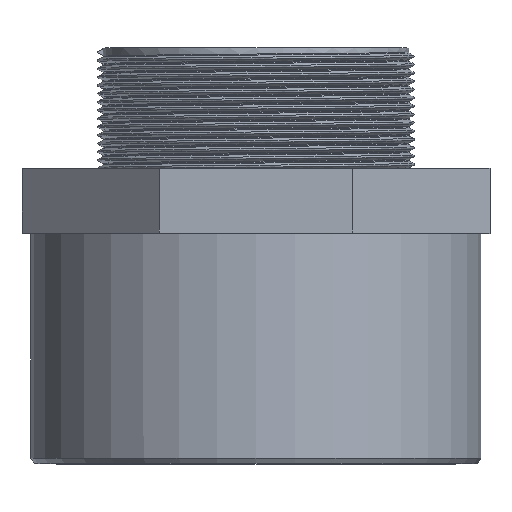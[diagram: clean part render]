
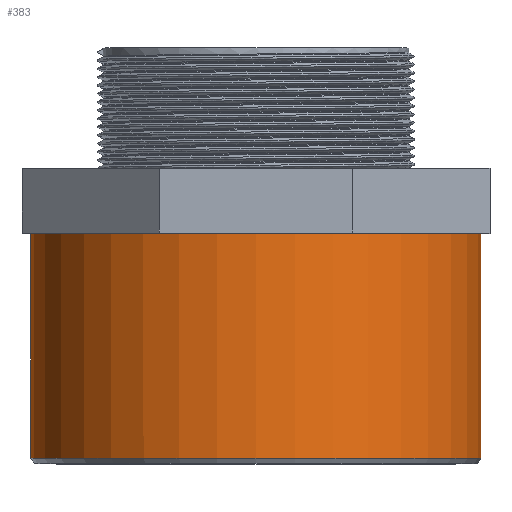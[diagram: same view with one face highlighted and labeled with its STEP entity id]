
A CAD part, top view. The second image highlights one B-rep face of the part: STEP entity #383.
In plain terms, the highlighted cylindrical face has radius 62.5 mm (diameter 125 mm), a full revolution.
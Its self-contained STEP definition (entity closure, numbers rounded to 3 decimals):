
#100=CYLINDRICAL_SURFACE('',#413,62.5);
#106=FACE_BOUND('',#145,.T.);
#117=FACE_OUTER_BOUND('',#144,.T.);
#144=EDGE_LOOP('',(#281));
#145=EDGE_LOOP('',(#282));
#179=CIRCLE('',#411,62.5);
#181=CIRCLE('',#414,62.5);
#192=VERTEX_POINT('',#543);
#194=VERTEX_POINT('',#548);
#228=EDGE_CURVE('',#192,#192,#179,.T.);
#230=EDGE_CURVE('',#194,#194,#181,.T.);
#281=ORIENTED_EDGE('',*,*,#230,.F.);
#282=ORIENTED_EDGE('',*,*,#228,.F.);
#383=ADVANCED_FACE('',(#117,#106),#100,.T.);
#411=AXIS2_PLACEMENT_3D('',#544,#448,#449);
#413=AXIS2_PLACEMENT_3D('',#547,#452,#453);
#414=AXIS2_PLACEMENT_3D('',#549,#454,#455);
#448=DIRECTION('center_axis',(0.,-1.,0.));
#449=DIRECTION('ref_axis',(-1.,0.,0.));
#452=DIRECTION('center_axis',(0.,-1.,0.));
#453=DIRECTION('ref_axis',(-1.,0.,0.));
#454=DIRECTION('center_axis',(0.,1.,0.));
#455=DIRECTION('ref_axis',(-1.,0.,0.));
#543=CARTESIAN_POINT('',(62.5,-71.5,0.));
#544=CARTESIAN_POINT('Origin',(0.,-71.5,0.));
#547=CARTESIAN_POINT('Origin',(0.,-9.,0.));
#548=CARTESIAN_POINT('',(62.5,-9.,0.));
#549=CARTESIAN_POINT('Origin',(0.,-9.,0.));
